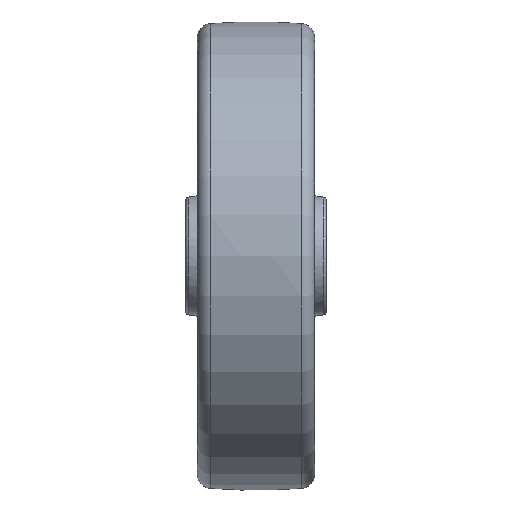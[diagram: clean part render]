
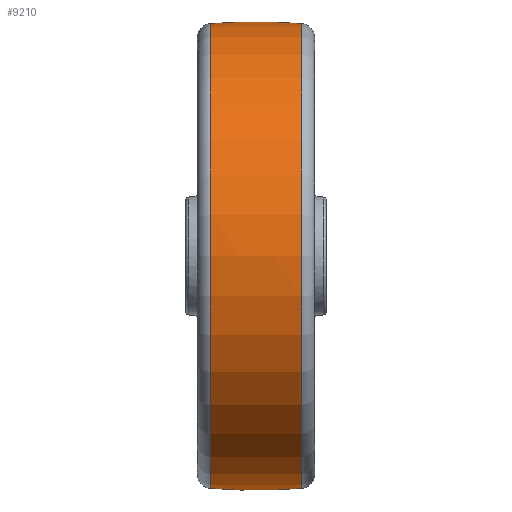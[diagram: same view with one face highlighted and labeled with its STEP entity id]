
A CAD part, top view. The second image highlights one B-rep face of the part: STEP entity #9210.
In plain terms, the highlighted free-form (B-spline) face has degree [3, 3] with [7, 4] control points.
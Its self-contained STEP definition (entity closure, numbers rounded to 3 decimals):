
#767 = VERTEX_POINT ( 'NONE', #22636 ) ;
#1419 = CARTESIAN_POINT ( 'NONE',  ( 20.244, 61.035, 99.179 ) ) ;
#1478 = EDGE_CURVE ( 'NONE', #17493, #24471, #24989, .T. ) ;
#1747 = CARTESIAN_POINT ( 'NONE',  ( -6.763, 100.076, -6.296 ) ) ;
#2187 = EDGE_CURVE ( 'NONE', #767, #33760, #5209, .T. ) ;
#2263 = CIRCLE ( 'NONE', #28029, 99.241 ) ;
#3406 = EDGE_CURVE ( 'NONE', #33760, #24471, #2263, .T. ) ;
#3933 = CARTESIAN_POINT ( 'NONE',  ( 20.244, 102.816, 54.687 ) ) ;
#4281 = CARTESIAN_POINT ( 'NONE',  ( 20.244, -98.983, -6.228 ) ) ;
#5209 = CIRCLE ( 'NONE', #16341, 250. ) ;
#5220 =( BOUNDED_SURFACE ( )  B_SPLINE_SURFACE ( 3, 3, ( 
 ( #4281, #32978, #9677, #25191 ),
 ( #25309, #30450, #17164, #19906 ),
 ( #22667, #6916, #27935, #22548 ),
 ( #14714, #9443, #14831, #9564 ),
 ( #1419, #25426, #17408, #27717 ),
 ( #3933, #11956, #17050, #12180 ),
 ( #33211, #27830, #1747, #9328 ) ),
 .UNSPECIFIED., .F., .F., .F. ) 
 B_SPLINE_SURFACE_WITH_KNOTS ( ( 4, 3, 4 ),
 ( 4, 4 ),
 ( 0., 1., 2. ),
 ( 0., 1. ),
 .UNSPECIFIED. ) 
 GEOMETRIC_REPRESENTATION_ITEM ( )  RATIONAL_B_SPLINE_SURFACE ( (
 ( 1.189, 1.187, 1.187, 1.189),
 ( 0.939, 0.937, 0.937, 0.939),
 ( 0.939, 0.937, 0.937, 0.939),
 ( 1.189, 1.187, 1.187, 1.189),
 ( 0.939, 0.937, 0.937, 0.939),
 ( 0.939, 0.937, 0.937, 0.939),
 ( 1.189, 1.187, 1.187, 1.189) ) ) 
 REPRESENTATION_ITEM ( '' )  SURFACE ( )  );
#6558 = CARTESIAN_POINT ( 'NONE',  ( 0., -150., 0. ) ) ;
#6916 = CARTESIAN_POINT ( 'NONE',  ( 6.763, -61.709, 100.274 ) ) ;
#7017 = DIRECTION ( 'NONE',  ( 0., -1., 0. ) ) ;
#8032 = CARTESIAN_POINT ( 'NONE',  ( 19.467, 99.241, 0. ) ) ;
#9210 = ADVANCED_FACE ( 'NONE', ( #18248 ), #5220, .T. ) ;
#9328 = CARTESIAN_POINT ( 'NONE',  ( -20.244, 98.983, -6.228 ) ) ;
#9443 = CARTESIAN_POINT ( 'NONE',  ( 6.763, 0., 100.274 ) ) ;
#9564 = CARTESIAN_POINT ( 'NONE',  ( -20.244, 0., 99.179 ) ) ;
#9677 = CARTESIAN_POINT ( 'NONE',  ( -6.763, -100.076, -6.296 ) ) ;
#11063 = DIRECTION ( 'NONE',  ( 0.078, -0.997, 0. ) ) ;
#11441 = DIRECTION ( 'NONE',  ( -1., 0., 0. ) ) ;
#11792 = CARTESIAN_POINT ( 'NONE',  ( -19.467, 99.241, 0. ) ) ;
#11956 = CARTESIAN_POINT ( 'NONE',  ( 6.763, 103.951, 55.291 ) ) ;
#12180 = CARTESIAN_POINT ( 'NONE',  ( -20.244, 102.816, 54.687 ) ) ;
#13849 = DIRECTION ( 'NONE',  ( 0., 0., -1. ) ) ;
#14714 = CARTESIAN_POINT ( 'NONE',  ( 20.244, 0., 99.179 ) ) ;
#14831 = CARTESIAN_POINT ( 'NONE',  ( -6.763, 0., 100.274 ) ) ;
#16341 = AXIS2_PLACEMENT_3D ( 'NONE', #26836, #13849, #11063 ) ;
#16987 = ORIENTED_EDGE ( 'NONE', *, *, #1478, .T. ) ;
#17050 = CARTESIAN_POINT ( 'NONE',  ( -6.763, 103.951, 55.291 ) ) ;
#17160 = DIRECTION ( 'NONE',  ( 0.078, 0.997, 0. ) ) ;
#17164 = CARTESIAN_POINT ( 'NONE',  ( -6.763, -103.951, 55.291 ) ) ;
#17408 = CARTESIAN_POINT ( 'NONE',  ( -6.763, 61.709, 100.274 ) ) ;
#17493 = VERTEX_POINT ( 'NONE', #8032 ) ;
#18052 = EDGE_CURVE ( 'NONE', #767, #17493, #29732, .T. ) ;
#18248 = FACE_OUTER_BOUND ( 'NONE', #29014, .T. ) ;
#19507 = DIRECTION ( 'NONE',  ( 0., -1., 0. ) ) ;
#19906 = CARTESIAN_POINT ( 'NONE',  ( -20.244, -102.816, 54.687 ) ) ;
#21926 = CARTESIAN_POINT ( 'NONE',  ( 19.467, 0., 0. ) ) ;
#22548 = CARTESIAN_POINT ( 'NONE',  ( -20.244, -61.035, 99.179 ) ) ;
#22636 = CARTESIAN_POINT ( 'NONE',  ( 19.467, -99.241, 0. ) ) ;
#22667 = CARTESIAN_POINT ( 'NONE',  ( 20.244, -61.035, 99.179 ) ) ;
#22790 = CARTESIAN_POINT ( 'NONE',  ( -19.467, -99.241, 0. ) ) ;
#24471 = VERTEX_POINT ( 'NONE', #11792 ) ;
#24989 = CIRCLE ( 'NONE', #33730, 250. ) ;
#25191 = CARTESIAN_POINT ( 'NONE',  ( -20.244, -98.983, -6.228 ) ) ;
#25272 = AXIS2_PLACEMENT_3D ( 'NONE', #21926, #11441, #19507 ) ;
#25309 = CARTESIAN_POINT ( 'NONE',  ( 20.244, -102.816, 54.687 ) ) ;
#25426 = CARTESIAN_POINT ( 'NONE',  ( 6.763, 61.709, 100.274 ) ) ;
#25760 = CARTESIAN_POINT ( 'NONE',  ( -19.467, 0., 0. ) ) ;
#26050 = ORIENTED_EDGE ( 'NONE', *, *, #3406, .F. ) ;
#26836 = CARTESIAN_POINT ( 'NONE',  ( 0., 150., 0. ) ) ;
#27596 = DIRECTION ( 'NONE',  ( 0., 0., 1. ) ) ;
#27717 = CARTESIAN_POINT ( 'NONE',  ( -20.244, 61.035, 99.179 ) ) ;
#27830 = CARTESIAN_POINT ( 'NONE',  ( 6.763, 100.076, -6.296 ) ) ;
#27935 = CARTESIAN_POINT ( 'NONE',  ( -6.763, -61.709, 100.274 ) ) ;
#28029 = AXIS2_PLACEMENT_3D ( 'NONE', #25760, #31020, #7017 ) ;
#29014 = EDGE_LOOP ( 'NONE', ( #31851, #16987, #26050, #32446 ) ) ;
#29732 = CIRCLE ( 'NONE', #25272, 99.241 ) ;
#30450 = CARTESIAN_POINT ( 'NONE',  ( 6.763, -103.951, 55.291 ) ) ;
#31020 = DIRECTION ( 'NONE',  ( -1., 0., 0. ) ) ;
#31851 = ORIENTED_EDGE ( 'NONE', *, *, #18052, .T. ) ;
#32446 = ORIENTED_EDGE ( 'NONE', *, *, #2187, .F. ) ;
#32978 = CARTESIAN_POINT ( 'NONE',  ( 6.763, -100.076, -6.296 ) ) ;
#33211 = CARTESIAN_POINT ( 'NONE',  ( 20.244, 98.983, -6.228 ) ) ;
#33730 = AXIS2_PLACEMENT_3D ( 'NONE', #6558, #27596, #17160 ) ;
#33760 = VERTEX_POINT ( 'NONE', #22790 ) ;
